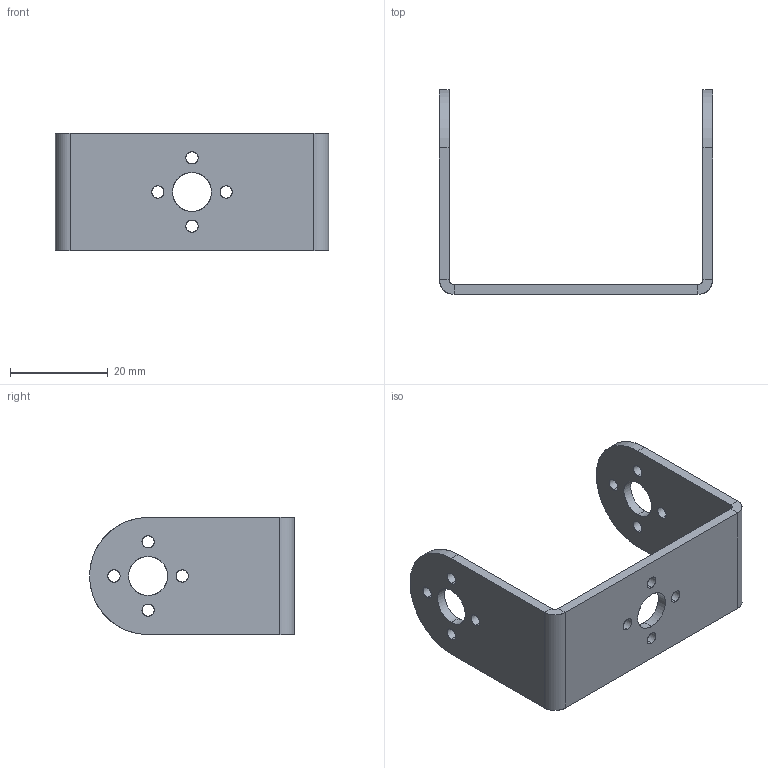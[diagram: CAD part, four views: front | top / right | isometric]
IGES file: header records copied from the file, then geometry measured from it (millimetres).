
Start section: SolidWorks IGES file using analytic representation for surfaces
Global section: file name: D:\Autres\Projets\CAO\Servo Brackets\U Bracket.IGS; native system: SolidWorks 2015; preprocessor: SolidWorks 2015; author: Hendricks; date: 150615.051148; units: millimetre
Bounding box: 56 x 42 x 24 mm (x, y, z)
Surface area: 6710.2 mm2 (no closed solid volume)
Topology: 0 solids, 0 shells, 53 faces, 1288 edges, 1288 vertices
Faces by surface type: revolution 37, bspline 16
